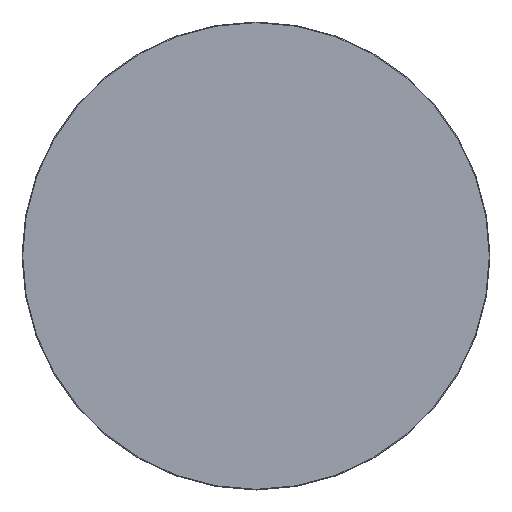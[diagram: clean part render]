
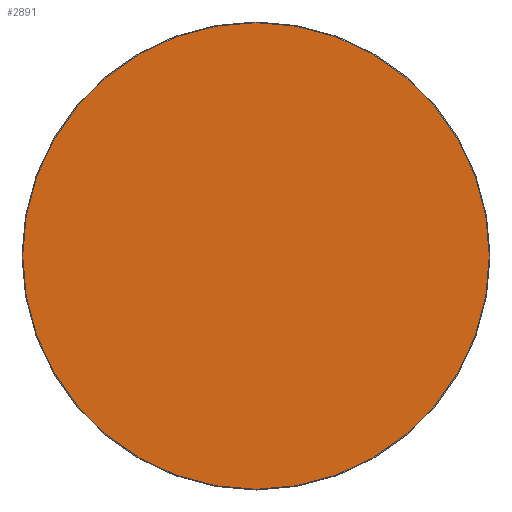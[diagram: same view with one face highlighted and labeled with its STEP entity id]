
A CAD part, top view. The second image highlights one B-rep face of the part: STEP entity #2891.
In plain terms, the highlighted planar face has unit normal (0, 0, 1).
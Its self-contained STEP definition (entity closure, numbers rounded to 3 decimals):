
#681=PLANE('',#3420);
#1181=ORIENTED_EDGE('',*,*,#1657,.T.);
#1657=EDGE_CURVE('',#1935,#1935,#2105,.F.);
#1935=VERTEX_POINT('',#5165);
#2105=CIRCLE('',#3421,349.);
#2323=EDGE_LOOP('',(#1181));
#2601=FACE_BOUND('',#2323,.T.);
#2891=ADVANCED_FACE('',(#2601),#681,.F.);
#3420=AXIS2_PLACEMENT_3D('',#5163,#4210,#4211);
#3421=AXIS2_PLACEMENT_3D('',#5164,#4212,#4213);
#4210=DIRECTION('',(0.,0.,-1.));
#4211=DIRECTION('',(-1.,0.,0.));
#4212=DIRECTION('',(0.,0.,-1.));
#4213=DIRECTION('',(-1.,0.,0.));
#5163=CARTESIAN_POINT('',(0.,0.,400.));
#5164=CARTESIAN_POINT('',(0.,0.,400.));
#5165=CARTESIAN_POINT('',(-349.,0.,400.));
